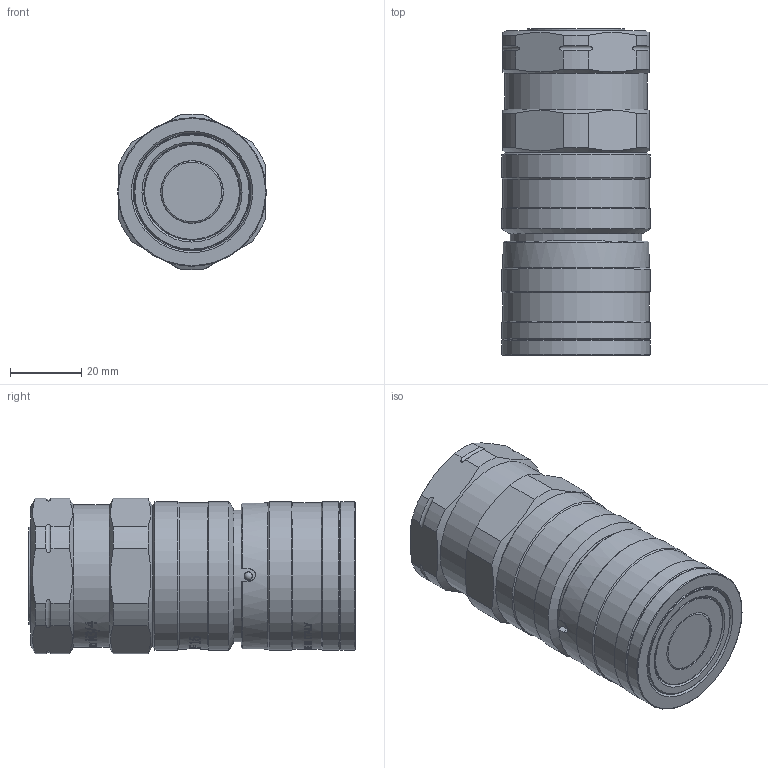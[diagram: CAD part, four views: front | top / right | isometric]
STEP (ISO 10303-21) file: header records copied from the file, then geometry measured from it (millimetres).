
FILE_DESCRIPTION(/* description */ (''),/* implementation_level */ '2;1');
FILE_NAME(/* name */ 'NC06N040004.stp',/* time_stamp */ '2024-08-26T16:37:28+02:00',/* author */ ('thomas.belotti'),/* organization */ (''),/* preprocessor_version */ 'ST-DEVELOPER v20',/* originating_system */ 'Autodesk Inventor 2024',/* authorisation */ '');
FILE_SCHEMA (('AUTOMOTIVE_DESIGN { 1 0 10303 214 3 1 1 }'));
Products named in the file (1): Parte11
Bounding box: 41.7 x 91.59 x 43.73 mm (x, y, z)
Volume: 114377.6 mm3; surface area: 20970.4 mm2
Topology: 1 solids, 3 shells, 1608 faces, 4568 edges, 3037 vertices
Faces by surface type: bspline 1036, plane 423, cylinder 117, cone 20, torus 10, sphere 2
Full cylindrical faces by diameter (mm): 2.3 x2, 17.5 x1, 17.6 x1, 23 x1, 24 x1, 27 x1, 27.1 x1, 27.5 x1, 32.5 x1, 33.05 x1, 36.9 x1, 37 x1, 37.1 x1, 37.3 x1, 40 x1, 41 x3, 41.7 x5
Entity records: 69335 total; most frequent: CARTESIAN_POINT 32702, ORIENTED_EDGE 9136, EDGE_CURVE 4568, DIRECTION 4090, VERTEX_POINT 3037, B_SPLINE_CURVE_WITH_KNOTS 2164, LINE 1808, VECTOR 1808
